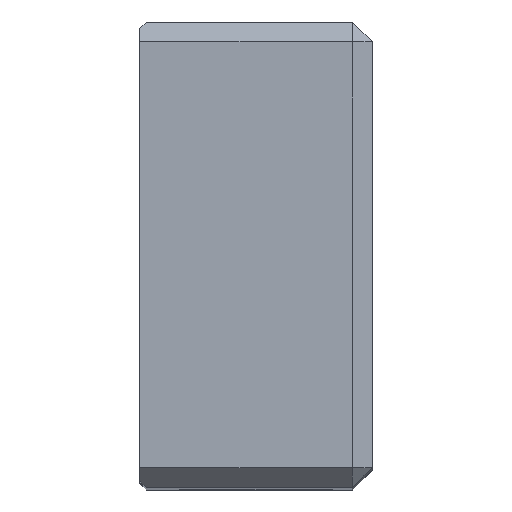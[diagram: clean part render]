
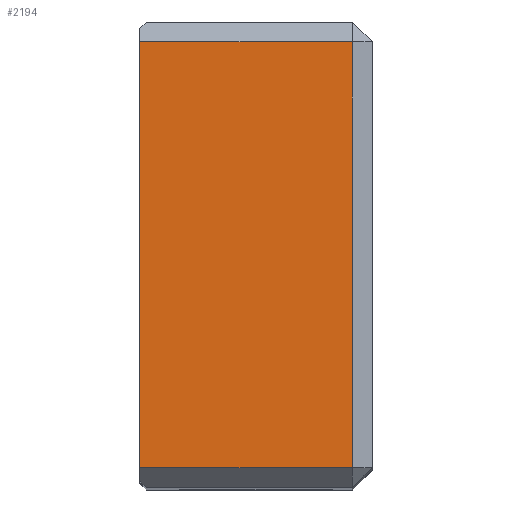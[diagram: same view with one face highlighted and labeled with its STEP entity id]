
A CAD part, top view. The second image highlights one B-rep face of the part: STEP entity #2194.
In plain terms, the highlighted planar face has unit normal (0, 0, 1).
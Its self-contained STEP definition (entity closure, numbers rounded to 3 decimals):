
#255=VERTEX_POINT(' ',#256);
#256=CARTESIAN_POINT('',(-3.,-32.,0.));
#257=VERTEX_POINT(' ',#258);
#258=CARTESIAN_POINT('',(-3.,32.,0.));
#259=VERTEX_POINT(' ',#260);
#260=CARTESIAN_POINT('',(-35.,32.,0.));
#261=VERTEX_POINT(' ',#262);
#262=CARTESIAN_POINT('',(-35.,-32.,0.));
#1049=LINE('',#1050,#1051);
#1050=CARTESIAN_POINT('',(-3.,48.971,0.));
#1051=VECTOR('',#1052,1.);
#1052=DIRECTION('',(0.,-1.,0.));
#1053=EDGE_CURVE(' ',#257,#255,#1049,.T.);
#1054=LINE('',#1055,#1056);
#1055=CARTESIAN_POINT('',(-51.971,32.,0.));
#1056=VECTOR('',#1057,1.);
#1057=DIRECTION('',(1.,0.,0.));
#1058=EDGE_CURVE(' ',#259,#257,#1054,.T.);
#1059=LINE('',#1060,#1061);
#1060=CARTESIAN_POINT('',(-35.,35.12,0.));
#1061=VECTOR('',#1062,1.);
#1062=DIRECTION('',(0.,-1.,0.));
#1063=EDGE_CURVE(' ',#259,#261,#1059,.T.);
#1064=LINE('',#1065,#1066);
#1065=CARTESIAN_POINT('',(13.971,-32.,0.));
#1066=VECTOR('',#1067,1.);
#1067=DIRECTION('',(-1.,0.,0.));
#1068=EDGE_CURVE(' ',#255,#261,#1064,.T.);
#2183=ORIENTED_EDGE('',*,*,#1053,.F.);
#2184=ORIENTED_EDGE('',*,*,#1058,.F.);
#2185=ORIENTED_EDGE('',*,*,#1063,.T.);
#2186=ORIENTED_EDGE('',*,*,#1068,.F.);
#2187=EDGE_LOOP('',(#2183,#2184,#2185,#2186));
#2188=FACE_OUTER_BOUND('',#2187,.T.);
#2189=PLANE('',#2190);
#2190=AXIS2_PLACEMENT_3D('',#2191,#2192,#2193);
#2191=CARTESIAN_POINT('',(0.,35.,0.));
#2192=DIRECTION('',(0.,0.,1.));
#2193=DIRECTION('',(0.,-1.,0.));
#2194=ADVANCED_FACE('',(#2188),#2189,.T.);
